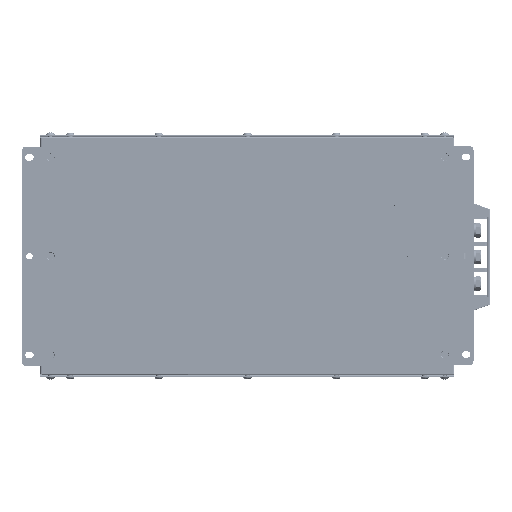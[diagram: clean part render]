
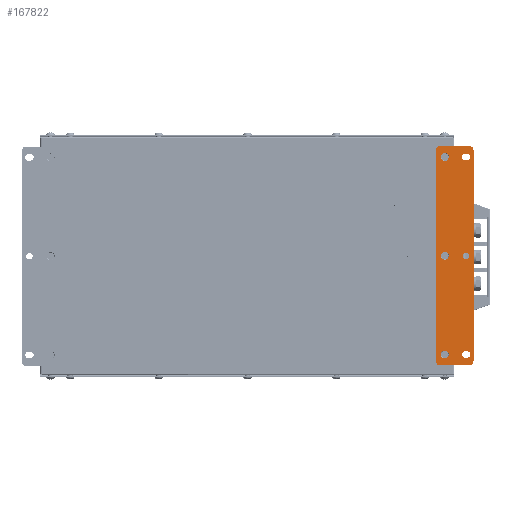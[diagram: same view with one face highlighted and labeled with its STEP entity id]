
A CAD part, front view. The second image highlights one B-rep face of the part: STEP entity #167822.
In plain terms, the highlighted planar face has unit normal (0, -1, 0).
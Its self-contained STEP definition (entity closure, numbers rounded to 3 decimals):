
#5859=FACE_BOUND('',#23917,.T.);
#5860=FACE_BOUND('',#23918,.T.);
#5861=FACE_BOUND('',#23919,.T.);
#5862=FACE_BOUND('',#23920,.T.);
#5863=FACE_BOUND('',#23921,.T.);
#5864=FACE_BOUND('',#23922,.T.);
#7907=CIRCLE('',#178053,4.);
#7908=CIRCLE('',#178055,4.);
#7909=CIRCLE('',#178057,4.);
#7921=CIRCLE('',#178073,3.3);
#7922=CIRCLE('',#178076,3.3);
#7923=CIRCLE('',#178080,3.3);
#7924=CIRCLE('',#178083,3.3);
#7925=CIRCLE('',#178085,3.3);
#7926=CIRCLE('',#178087,4.);
#7927=CIRCLE('',#178090,4.);
#7928=CIRCLE('',#178093,4.);
#7929=CIRCLE('',#178096,4.);
#14632=FACE_OUTER_BOUND('',#23916,.T.);
#23916=EDGE_LOOP('',(#109651,#109652,#109653,#109654,#109655,#109656,#109657,
#109658));
#23917=EDGE_LOOP('',(#109659));
#23918=EDGE_LOOP('',(#109660));
#23919=EDGE_LOOP('',(#109661));
#23920=EDGE_LOOP('',(#109662));
#23921=EDGE_LOOP('',(#109663,#109664,#109665,#109666));
#23922=EDGE_LOOP('',(#109667,#109668,#109669,#109670));
#34722=LINE('',#238183,#50272);
#34725=LINE('',#238191,#50275);
#34729=LINE('',#238201,#50279);
#34732=LINE('',#238209,#50282);
#34737=LINE('',#238225,#50287);
#34740=LINE('',#238233,#50290);
#34743=LINE('',#238241,#50293);
#34746=LINE('',#238248,#50296);
#50272=VECTOR('',#195235,10.);
#50275=VECTOR('',#195244,10.);
#50279=VECTOR('',#195256,10.);
#50282=VECTOR('',#195265,10.);
#50287=VECTOR('',#195284,10.);
#50290=VECTOR('',#195293,10.);
#50293=VECTOR('',#195302,10.);
#50296=VECTOR('',#195311,10.);
#66121=VERTEX_POINT('',#238148);
#66122=VERTEX_POINT('',#238152);
#66123=VERTEX_POINT('',#238156);
#66129=VERTEX_POINT('',#238180);
#66130=VERTEX_POINT('',#238182);
#66131=VERTEX_POINT('',#238186);
#66132=VERTEX_POINT('',#238190);
#66133=VERTEX_POINT('',#238198);
#66134=VERTEX_POINT('',#238200);
#66135=VERTEX_POINT('',#238204);
#66136=VERTEX_POINT('',#238208);
#66137=VERTEX_POINT('',#238214);
#66138=VERTEX_POINT('',#238218);
#66139=VERTEX_POINT('',#238220);
#66140=VERTEX_POINT('',#238224);
#66141=VERTEX_POINT('',#238228);
#66142=VERTEX_POINT('',#238232);
#66143=VERTEX_POINT('',#238236);
#66144=VERTEX_POINT('',#238240);
#66145=VERTEX_POINT('',#238244);
#82746=EDGE_CURVE('',#66121,#66121,#7907,.T.);
#82748=EDGE_CURVE('',#66122,#66122,#7908,.T.);
#82750=EDGE_CURVE('',#66123,#66123,#7909,.T.);
#82766=EDGE_CURVE('',#66130,#66129,#34722,.T.);
#82768=EDGE_CURVE('',#66131,#66130,#7921,.T.);
#82770=EDGE_CURVE('',#66132,#66131,#34725,.T.);
#82772=EDGE_CURVE('',#66129,#66132,#7922,.T.);
#82775=EDGE_CURVE('',#66134,#66133,#34729,.T.);
#82777=EDGE_CURVE('',#66135,#66134,#7923,.T.);
#82779=EDGE_CURVE('',#66136,#66135,#34732,.T.);
#82781=EDGE_CURVE('',#66133,#66136,#7924,.T.);
#82782=EDGE_CURVE('',#66137,#66137,#7925,.T.);
#82785=EDGE_CURVE('',#66139,#66138,#7926,.T.);
#82787=EDGE_CURVE('',#66140,#66139,#34737,.T.);
#82789=EDGE_CURVE('',#66141,#66140,#7927,.T.);
#82791=EDGE_CURVE('',#66142,#66141,#34740,.T.);
#82793=EDGE_CURVE('',#66143,#66142,#7928,.T.);
#82795=EDGE_CURVE('',#66144,#66143,#34743,.T.);
#82797=EDGE_CURVE('',#66145,#66144,#7929,.T.);
#82799=EDGE_CURVE('',#66138,#66145,#34746,.T.);
#109651=ORIENTED_EDGE('',*,*,#82799,.T.);
#109652=ORIENTED_EDGE('',*,*,#82797,.T.);
#109653=ORIENTED_EDGE('',*,*,#82795,.T.);
#109654=ORIENTED_EDGE('',*,*,#82793,.T.);
#109655=ORIENTED_EDGE('',*,*,#82791,.T.);
#109656=ORIENTED_EDGE('',*,*,#82789,.T.);
#109657=ORIENTED_EDGE('',*,*,#82787,.T.);
#109658=ORIENTED_EDGE('',*,*,#82785,.T.);
#109659=ORIENTED_EDGE('',*,*,#82746,.T.);
#109660=ORIENTED_EDGE('',*,*,#82748,.T.);
#109661=ORIENTED_EDGE('',*,*,#82750,.T.);
#109662=ORIENTED_EDGE('',*,*,#82782,.T.);
#109663=ORIENTED_EDGE('',*,*,#82781,.T.);
#109664=ORIENTED_EDGE('',*,*,#82779,.T.);
#109665=ORIENTED_EDGE('',*,*,#82777,.T.);
#109666=ORIENTED_EDGE('',*,*,#82775,.T.);
#109667=ORIENTED_EDGE('',*,*,#82772,.T.);
#109668=ORIENTED_EDGE('',*,*,#82770,.T.);
#109669=ORIENTED_EDGE('',*,*,#82768,.T.);
#109670=ORIENTED_EDGE('',*,*,#82766,.T.);
#152937=PLANE('',#178098);
#167822=ADVANCED_FACE('',(#14632,#5859,#5860,#5861,#5862,#5863,#5864),#152937,
 .T.);
#178053=AXIS2_PLACEMENT_3D('',#238149,#195191,#195192);
#178055=AXIS2_PLACEMENT_3D('',#238153,#195196,#195197);
#178057=AXIS2_PLACEMENT_3D('',#238157,#195201,#195202);
#178073=AXIS2_PLACEMENT_3D('',#238187,#195239,#195240);
#178076=AXIS2_PLACEMENT_3D('',#238194,#195248,#195249);
#178080=AXIS2_PLACEMENT_3D('',#238205,#195260,#195261);
#178083=AXIS2_PLACEMENT_3D('',#238212,#195269,#195270);
#178085=AXIS2_PLACEMENT_3D('',#238215,#195273,#195274);
#178087=AXIS2_PLACEMENT_3D('',#238221,#195279,#195280);
#178090=AXIS2_PLACEMENT_3D('',#238229,#195288,#195289);
#178093=AXIS2_PLACEMENT_3D('',#238237,#195297,#195298);
#178096=AXIS2_PLACEMENT_3D('',#238245,#195306,#195307);
#178098=AXIS2_PLACEMENT_3D('',#238249,#195312,#195313);
#195191=DIRECTION('center_axis',(0.,1.,0.));
#195192=DIRECTION('ref_axis',(0.,0.,
1.));
#195196=DIRECTION('center_axis',(0.,1.,0.));
#195197=DIRECTION('ref_axis',(0.,0.,
1.));
#195201=DIRECTION('center_axis',(0.,1.,0.));
#195202=DIRECTION('ref_axis',(0.,0.,
1.));
#195235=DIRECTION('',(-1.,0.,0.));
#195239=DIRECTION('center_axis',(0.,1.,0.));
#195240=DIRECTION('ref_axis',(0.,0.,
1.));
#195244=DIRECTION('',(1.,0.,0.));
#195248=DIRECTION('center_axis',(0.,1.,0.));
#195249=DIRECTION('ref_axis',(0.,0.,
-1.));
#195256=DIRECTION('',(-1.,0.,0.));
#195260=DIRECTION('center_axis',(0.,1.,0.));
#195261=DIRECTION('ref_axis',(0.,0.,
1.));
#195265=DIRECTION('',(1.,0.,0.));
#195269=DIRECTION('center_axis',(0.,1.,0.));
#195270=DIRECTION('ref_axis',(0.,0.,
-1.));
#195273=DIRECTION('center_axis',(0.,1.,0.));
#195274=DIRECTION('ref_axis',(0.,0.,
1.));
#195279=DIRECTION('center_axis',(0.,-1.,0.));
#195280=DIRECTION('ref_axis',(0.,0.,
-1.));
#195284=DIRECTION('',(1.,0.,0.));
#195288=DIRECTION('center_axis',(0.,-1.,0.));
#195289=DIRECTION('ref_axis',(-1.,0.,0.));
#195293=DIRECTION('',(0.,0.,-1.));
#195297=DIRECTION('center_axis',(0.,-1.,0.));
#195298=DIRECTION('ref_axis',(0.,0.,
1.));
#195302=DIRECTION('',(-1.,0.,0.));
#195306=DIRECTION('center_axis',(0.,-1.,0.));
#195307=DIRECTION('ref_axis',(1.,0.,0.));
#195311=DIRECTION('',(0.,0.,1.));
#195312=DIRECTION('center_axis',(0.,-1.,0.));
#195313=DIRECTION('ref_axis',(1.,0.,0.));
#238148=CARTESIAN_POINT('',(110.274,-70.851,96.273));
#238149=CARTESIAN_POINT('Origin',(110.274,-70.851,100.273));
#238152=CARTESIAN_POINT('',(110.274,-70.851,-3.727));
#238153=CARTESIAN_POINT('Origin',(110.274,-70.851,0.273));
#238156=CARTESIAN_POINT('',(110.274,-70.851,-103.727));
#238157=CARTESIAN_POINT('Origin',(110.274,-70.851,-99.727));
#238180=CARTESIAN_POINT('',(130.774,-70.851,-103.027));
#238182=CARTESIAN_POINT('',(132.774,-70.851,-103.027));
#238183=CARTESIAN_POINT('',(132.774,-70.851,-103.027));
#238186=CARTESIAN_POINT('',(132.774,-70.851,-96.427));
#238187=CARTESIAN_POINT('Origin',(132.774,-70.851,-99.727));
#238190=CARTESIAN_POINT('',(130.774,-70.851,-96.427));
#238191=CARTESIAN_POINT('',(130.774,-70.851,-96.427));
#238194=CARTESIAN_POINT('Origin',(130.774,-70.851,-99.727));
#238198=CARTESIAN_POINT('',(130.774,-70.851,96.973));
#238200=CARTESIAN_POINT('',(132.774,-70.851,96.973));
#238201=CARTESIAN_POINT('',(132.774,-70.851,96.973));
#238204=CARTESIAN_POINT('',(132.774,-70.851,103.573));
#238205=CARTESIAN_POINT('Origin',(132.774,-70.851,100.273));
#238208=CARTESIAN_POINT('',(130.774,-70.851,103.573));
#238209=CARTESIAN_POINT('',(130.774,-70.851,103.573));
#238212=CARTESIAN_POINT('Origin',(130.774,-70.851,100.273));
#238214=CARTESIAN_POINT('',(131.774,-70.851,-3.027));
#238215=CARTESIAN_POINT('Origin',(131.774,-70.851,0.273));
#238218=CARTESIAN_POINT('',(139.274,-70.851,-106.727));
#238220=CARTESIAN_POINT('',(135.274,-70.851,-110.727));
#238221=CARTESIAN_POINT('Origin',(135.274,-70.851,-106.727));
#238224=CARTESIAN_POINT('',(105.274,-70.851,-110.727));
#238225=CARTESIAN_POINT('',(105.274,-70.851,-110.727));
#238228=CARTESIAN_POINT('',(101.274,-70.851,-106.727));
#238229=CARTESIAN_POINT('Origin',(105.274,-70.851,-106.727));
#238232=CARTESIAN_POINT('',(101.274,-70.851,107.273));
#238233=CARTESIAN_POINT('',(101.274,-70.851,107.273));
#238236=CARTESIAN_POINT('',(105.274,-70.851,111.273));
#238237=CARTESIAN_POINT('Origin',(105.274,-70.851,107.273));
#238240=CARTESIAN_POINT('',(135.274,-70.851,111.273));
#238241=CARTESIAN_POINT('',(135.274,-70.851,111.273));
#238244=CARTESIAN_POINT('',(139.274,-70.851,107.273));
#238245=CARTESIAN_POINT('Origin',(135.274,-70.851,107.273));
#238248=CARTESIAN_POINT('',(139.274,-70.851,-106.727));
#238249=CARTESIAN_POINT('Origin',(120.274,-70.851,0.273));
